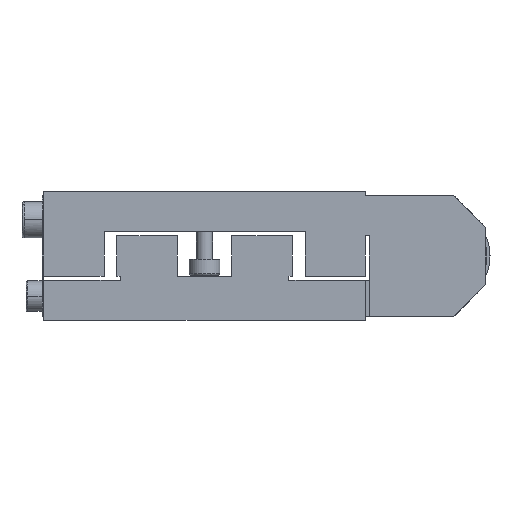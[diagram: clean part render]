
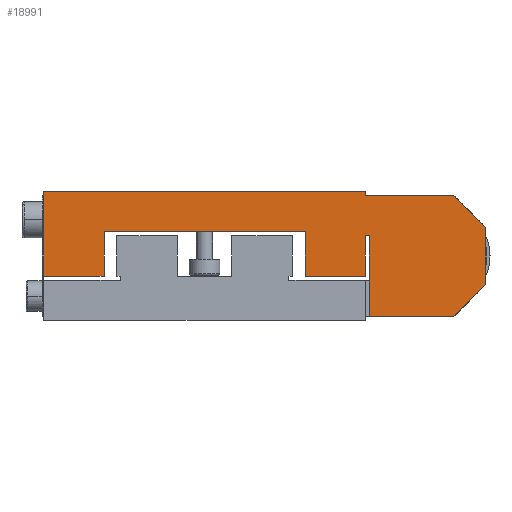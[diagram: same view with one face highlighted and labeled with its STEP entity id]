
A CAD part, front view. The second image highlights one B-rep face of the part: STEP entity #18991.
In plain terms, the highlighted planar face has unit normal (0, -1, 0).
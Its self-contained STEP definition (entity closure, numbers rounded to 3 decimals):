
#9557 = CARTESIAN_POINT ( 'NONE',  ( 55., 0., 4.5 ) ) ;
#9648 = CARTESIAN_POINT ( 'NONE',  ( 40., 0., 10.5 ) ) ;
#9649 = DIRECTION ( 'NONE',  ( -1., 0., 0. ) ) ;
#9650 = VECTOR ( 'NONE', #9649, 1000. ) ;
#9651 = CARTESIAN_POINT ( 'NONE',  ( 40.5, 0., 10.5 ) ) ;
#9652 = LINE ( 'NONE', #9651, #9650 ) ;
#9659 = DIRECTION ( 'NONE',  ( 0.707, 0., 0.707 ) ) ;
#9660 = VECTOR ( 'NONE', #9659, 1000. ) ;
#9661 = CARTESIAN_POINT ( 'NONE',  ( 51., 0., 0.5 ) ) ;
#9662 = LINE ( 'NONE', #9661, #9660 ) ;
#9674 = DIRECTION ( 'NONE',  ( 0., 0., 1. ) ) ;
#9675 = VECTOR ( 'NONE', #9674, 1000. ) ;
#9676 = CARTESIAN_POINT ( 'NONE',  ( 55., 0., 8. ) ) ;
#9677 = LINE ( 'NONE', #9676, #9675 ) ;
#9678 = CARTESIAN_POINT ( 'NONE',  ( 55., 0., 11.5 ) ) ;
#9691 = DIRECTION ( 'NONE',  ( 1., 0., 0. ) ) ;
#9692 = VECTOR ( 'NONE', #9691, 1000. ) ;
#9693 = CARTESIAN_POINT ( 'NONE',  ( 36.188, 0., 0.5 ) ) ;
#9694 = LINE ( 'NONE', #9693, #9692 ) ;
#9695 = CARTESIAN_POINT ( 'NONE',  ( 51., 0., 0.5 ) ) ;
#9751 = CARTESIAN_POINT ( 'NONE',  ( 40.5, 0., 10.5 ) ) ;
#9756 = CARTESIAN_POINT ( 'NONE',  ( 40., 0., 5.5 ) ) ;
#9785 = CARTESIAN_POINT ( 'NONE',  ( 32.5, 0., 5.5 ) ) ;
#9790 = DIRECTION ( 'NONE',  ( -0.707, 0., 0.707 ) ) ;
#9791 = VECTOR ( 'NONE', #9790, 1000. ) ;
#9792 = CARTESIAN_POINT ( 'NONE',  ( 55., 0., 11.5 ) ) ;
#9793 = LINE ( 'NONE', #9792, #9791 ) ;
#9811 = CARTESIAN_POINT ( 'NONE',  ( 40.5, 0., 0.5 ) ) ;
#9822 = DIRECTION ( 'NONE',  ( 1., 0., 0. ) ) ;
#9823 = VECTOR ( 'NONE', #9822, 1000. ) ;
#9824 = CARTESIAN_POINT ( 'NONE',  ( 36.188, 0., 5.5 ) ) ;
#9825 = LINE ( 'NONE', #9824, #9823 ) ;
#9839 = CARTESIAN_POINT ( 'NONE',  ( 32.5, 0., 11. ) ) ;
#9840 = DIRECTION ( 'NONE',  ( 0., 0., -1. ) ) ;
#9841 = VECTOR ( 'NONE', #9840, 1000. ) ;
#9842 = CARTESIAN_POINT ( 'NONE',  ( 32.5, 0., 8. ) ) ;
#9843 = LINE ( 'NONE', #9842, #9841 ) ;
#9871 = DIRECTION ( 'NONE',  ( 0., 0., -1. ) ) ;
#9872 = VECTOR ( 'NONE', #9871, 1000. ) ;
#9873 = CARTESIAN_POINT ( 'NONE',  ( 40.5, 0., 8. ) ) ;
#9874 = LINE ( 'NONE', #9873, #9872 ) ;
#9912 = CARTESIAN_POINT ( 'NONE',  ( 7.5, 0., 11. ) ) ;
#9913 = DIRECTION ( 'NONE',  ( 0., 0., 1. ) ) ;
#9914 = VECTOR ( 'NONE', #9913, 1000. ) ;
#9915 = CARTESIAN_POINT ( 'NONE',  ( 7.5, 0., 8. ) ) ;
#9916 = LINE ( 'NONE', #9915, #9914 ) ;
#9923 = DIRECTION ( 'NONE',  ( 1., 0., 0. ) ) ;
#9924 = VECTOR ( 'NONE', #9923, 1000. ) ;
#9925 = CARTESIAN_POINT ( 'NONE',  ( 36.188, 0., 5.5 ) ) ;
#9926 = LINE ( 'NONE', #9925, #9924 ) ;
#9937 = CARTESIAN_POINT ( 'NONE',  ( 40., 0., 15.5 ) ) ;
#9953 = CARTESIAN_POINT ( 'NONE',  ( 51., 0., 15.5 ) ) ;
#9965 = CARTESIAN_POINT ( 'NONE',  ( 7.5, 0., 5.5 ) ) ;
#9966 = CARTESIAN_POINT ( 'NONE',  ( 0., 0., 5.5 ) ) ;
#9972 = DIRECTION ( 'NONE',  ( -1., 0., 0. ) ) ;
#9973 = VECTOR ( 'NONE', #9972, 1000. ) ;
#9974 = CARTESIAN_POINT ( 'NONE',  ( 36.188, 0., 15.5 ) ) ;
#9975 = LINE ( 'NONE', #9974, #9973 ) ;
#10092 = DIRECTION ( 'NONE',  ( 1., 0., 0. ) ) ;
#10093 = VECTOR ( 'NONE', #10092, 1000. ) ;
#10094 = CARTESIAN_POINT ( 'NONE',  ( 36.188, 0., 11. ) ) ;
#10095 = LINE ( 'NONE', #10094, #10093 ) ;
#13567 = CARTESIAN_POINT ( 'NONE',  ( 40., 0., 8. ) ) ;
#13569 = DIRECTION ( 'NONE',  ( 0., 0., 1. ) ) ;
#13570 = VECTOR ( 'NONE', #13569, 1000. ) ;
#13703 = CARTESIAN_POINT ( 'NONE',  ( 0., 0., 16. ) ) ;
#13710 = DIRECTION ( 'NONE',  ( 0., 0., -1. ) ) ;
#13711 = VECTOR ( 'NONE', #13710, 1000. ) ;
#13712 = CARTESIAN_POINT ( 'NONE',  ( 0., 0., 8. ) ) ;
#13713 = LINE ( 'NONE', #13712, #13711 ) ;
#13753 = DIRECTION ( 'NONE',  ( 0., 0., 1. ) ) ;
#13754 = VECTOR ( 'NONE', #13753, 1000. ) ;
#13755 = CARTESIAN_POINT ( 'NONE',  ( 40., 0., 8. ) ) ;
#13756 = LINE ( 'NONE', #13755, #13754 ) ;
#13785 = LINE ( 'NONE', #13567, #13570 ) ;
#13803 = DIRECTION ( 'NONE',  ( 1., 0., 0. ) ) ;
#13804 = DIRECTION ( 'NONE',  ( 0., -1., 0. ) ) ;
#13805 = AXIS2_PLACEMENT_3D ( 'NONE', #13814, #13804, #13803 ) ;
#13813 = FACE_OUTER_BOUND ( 'NONE', #18992, .T. ) ;
#13814 = CARTESIAN_POINT ( 'NONE',  ( 36.188, 0., 8. ) ) ;
#13816 = PLANE ( 'NONE',  #13805 ) ;
#13866 = DIRECTION ( 'NONE',  ( -1., 0., 0. ) ) ;
#13867 = VECTOR ( 'NONE', #13866, 1000. ) ;
#13868 = CARTESIAN_POINT ( 'NONE',  ( 36.188, 0., 16. ) ) ;
#13869 = LINE ( 'NONE', #13868, #13867 ) ;
#13894 = CARTESIAN_POINT ( 'NONE',  ( 40., 0., 16. ) ) ;
#18949 = EDGE_CURVE ( 'NONE', #18951, #25011, #13713, .T. ) ;
#18951 = VERTEX_POINT ( 'NONE', #13703 ) ;
#18987 = EDGE_CURVE ( 'NONE', #24983, #19067, #13756, .T. ) ;
#18991 = ADVANCED_FACE ( 'NONE', ( #13813 ), #13816, .T. ) ;
#18992 = EDGE_LOOP ( 'NONE', ( #18993, #19043, #19044, #19045, #19049, #19050, #19052, #19053, #19055, #19058, #19059, #24485, #24488, #24484, #19032, #19033 ) ) ;
#18993 = ORIENTED_EDGE ( 'NONE', *, *, #24997, .T. ) ;
#19009 = EDGE_CURVE ( 'NONE', #24901, #24850, #13785, .T. ) ;
#19031 = EDGE_CURVE ( 'NONE', #19067, #18951, #13869, .T. ) ;
#19032 = ORIENTED_EDGE ( 'NONE', *, *, #18949, .T. ) ;
#19033 = ORIENTED_EDGE ( 'NONE', *, *, #24991, .T. ) ;
#19043 = ORIENTED_EDGE ( 'NONE', *, *, #25100, .T. ) ;
#19044 = ORIENTED_EDGE ( 'NONE', *, *, #24923, .T. ) ;
#19045 = ORIENTED_EDGE ( 'NONE', *, *, #24933, .T. ) ;
#19049 = ORIENTED_EDGE ( 'NONE', *, *, #19009, .T. ) ;
#19050 = ORIENTED_EDGE ( 'NONE', *, *, #24849, .F. ) ;
#19052 = ORIENTED_EDGE ( 'NONE', *, *, #24942, .T. ) ;
#19053 = ORIENTED_EDGE ( 'NONE', *, *, #24861, .T. ) ;
#19055 = ORIENTED_EDGE ( 'NONE', *, *, #24843, .T. ) ;
#19058 = ORIENTED_EDGE ( 'NONE', *, *, #24833, .T. ) ;
#19059 = ORIENTED_EDGE ( 'NONE', *, *, #24916, .T. ) ;
#19067 = VERTEX_POINT ( 'NONE', #13894 ) ;
#24484 = ORIENTED_EDGE ( 'NONE', *, *, #19031, .T. ) ;
#24485 = ORIENTED_EDGE ( 'NONE', *, *, #25003, .T. ) ;
#24488 = ORIENTED_EDGE ( 'NONE', *, *, #18987, .T. ) ;
#24790 = VERTEX_POINT ( 'NONE', #9557 ) ;
#24831 = VERTEX_POINT ( 'NONE', #9678 ) ;
#24833 = EDGE_CURVE ( 'NONE', #24790, #24831, #9677, .T. ) ;
#24843 = EDGE_CURVE ( 'NONE', #24859, #24790, #9662, .T. ) ;
#24849 = EDGE_CURVE ( 'NONE', #24906, #24850, #9652, .T. ) ;
#24850 = VERTEX_POINT ( 'NONE', #9648 ) ;
#24859 = VERTEX_POINT ( 'NONE', #9695 ) ;
#24861 = EDGE_CURVE ( 'NONE', #24940, #24859, #9694, .T. ) ;
#24901 = VERTEX_POINT ( 'NONE', #9756 ) ;
#24906 = VERTEX_POINT ( 'NONE', #9751 ) ;
#24916 = EDGE_CURVE ( 'NONE', #24831, #25021, #9793, .T. ) ;
#24920 = VERTEX_POINT ( 'NONE', #9785 ) ;
#24923 = EDGE_CURVE ( 'NONE', #24925, #24920, #9843, .T. ) ;
#24925 = VERTEX_POINT ( 'NONE', #9839 ) ;
#24933 = EDGE_CURVE ( 'NONE', #24920, #24901, #9825, .T. ) ;
#24940 = VERTEX_POINT ( 'NONE', #9811 ) ;
#24942 = EDGE_CURVE ( 'NONE', #24906, #24940, #9874, .T. ) ;
#24983 = VERTEX_POINT ( 'NONE', #9937 ) ;
#24991 = EDGE_CURVE ( 'NONE', #25011, #25014, #9926, .T. ) ;
#24997 = EDGE_CURVE ( 'NONE', #25014, #24998, #9916, .T. ) ;
#24998 = VERTEX_POINT ( 'NONE', #9912 ) ;
#25003 = EDGE_CURVE ( 'NONE', #25021, #24983, #9975, .T. ) ;
#25011 = VERTEX_POINT ( 'NONE', #9966 ) ;
#25014 = VERTEX_POINT ( 'NONE', #9965 ) ;
#25021 = VERTEX_POINT ( 'NONE', #9953 ) ;
#25100 = EDGE_CURVE ( 'NONE', #24998, #24925, #10095, .T. ) ;
